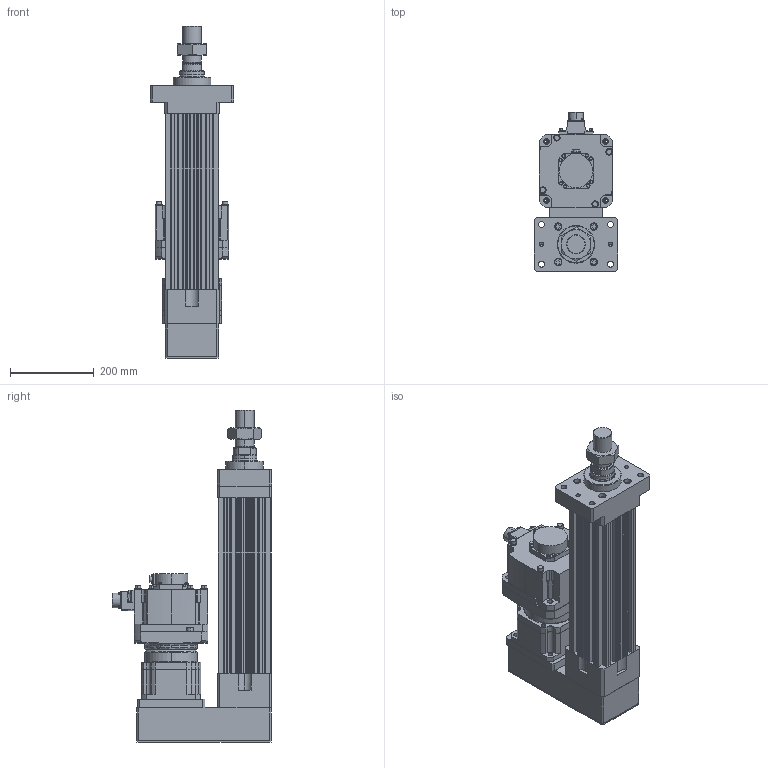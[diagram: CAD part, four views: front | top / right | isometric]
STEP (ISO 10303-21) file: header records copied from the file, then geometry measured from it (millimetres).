
FILE_DESCRIPTION (( 'STEP AP203' ), '1' );
FILE_NAME ('HES130FS(HS)-P200-W020G00-M-FMA.STEP', '2023-01-30T06:13:09', ( 'tms' ), ( '' ), 'SwSTEP 2.0', 'SolidWorks 2013', '' );
FILE_SCHEMA (( 'CONFIG_CONTROL_DESIGN' ));
Length unit declared in the file: millimetre
Products named in the file (9): P1301500001; P0403500801; HES130FS(HS)-P200-W020G00-M-FMA; HG-SR202; HES130 ROD M ST200; HES130-P200-G142-FMA; AB1421; M45X1.5P; AB142-003[HG-SR352]
Assembly tree (8 placements, depth 3):
  HES130FS(HS)-P200-W020G00-M-FMA
    HES130-P200-G142-FMA
    HES130 ROD M ST200
    M45X1.5P
    AB142-003[HG-SR352]
      AB1421
      P1301500001
      P0403500801
    HG-SR202
Bounding box: 200 x 381.85 x 794 mm (x, y, z)
Volume: 12084663.9 mm3; surface area: 1351515.9 mm2
Topology: 4 solids, 18 shells, 1401 faces, 3660 edges, 2370 vertices
Faces by surface type: cylinder 643, plane 530, cone 146, bspline 76, torus 6
Entity records: 52014 total; most frequent: CARTESIAN_POINT 16222, DIRECTION 7460, ORIENTED_EDGE 7222, EDGE_CURVE 3633, AXIS2_PLACEMENT_3D 2825, VERTEX_POINT 2370, LINE 1810, VECTOR 1810
